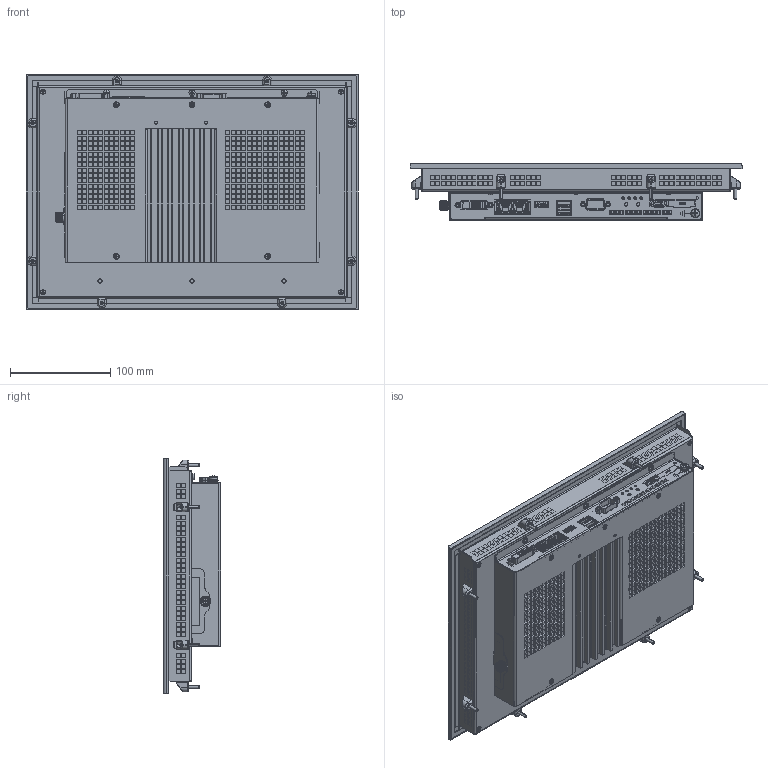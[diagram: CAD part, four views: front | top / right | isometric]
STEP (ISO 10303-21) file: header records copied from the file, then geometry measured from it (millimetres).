
FILE_DESCRIPTION((''),'2;1');
FILE_NAME('C6E22-Panel_121W_CAP_SL','2017-02-28T',('manpal'),(''),'PRO/ENGINEER BY PARAMETRIC TECHNOLOGY CORPORATION, 2013410','PRO/ENGINEER BY PARAMETRIC TECHNOLOGY CORPORATION, 2013410','');
FILE_SCHEMA(('AUTOMOTIVE_DESIGN { 1 0 10303 214 1 1 1 1 }'));
Products named in the file (2): C6E22-Panel_121W_CAP_SL_
Assembly tree (1 placements, depth 2):
  C6E22-Panel_121W_CAP_SL_
    C6E22-Panel_121W_CAP_SL_
Bounding box: 331 x 56.9 x 234 mm (x, y, z)
Surface area: 532994.6 mm2 (no closed solid volume)
Topology: 0 solids, 320 shells, 4395 faces, 18221 edges, 13990 vertices
Faces by surface type: plane 3392, cylinder 622, cone 210, bspline 111, torus 31, sphere 27, extrusion 2
Entity records: 211897 total; most frequent: CARTESIAN_POINT 47051, DIRECTION 28569, ORIENTED_EDGE 26337, EDGE_CURVE 18179, VECTOR 14387, LINE 14385, VERTEX_POINT 13990, AXIS2_PLACEMENT_3D 7091
